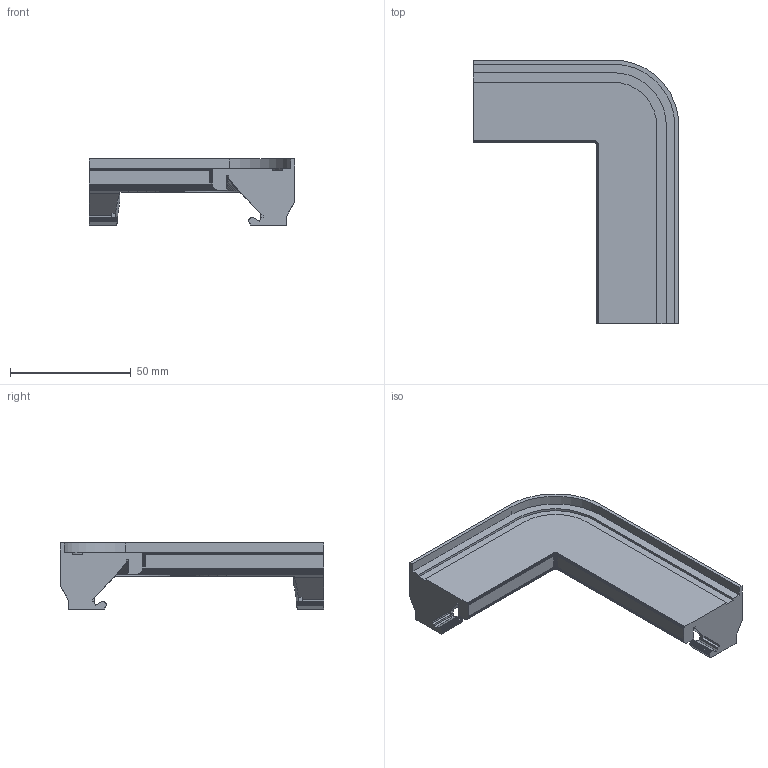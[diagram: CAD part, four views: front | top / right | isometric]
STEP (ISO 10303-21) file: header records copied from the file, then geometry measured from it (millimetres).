
FILE_DESCRIPTION(('Open CASCADE Model'),'2;1');
FILE_NAME('Open CASCADE Shape Model','2026-10-27T10:01:14',('Author'),( 'Open CASCADE'),'Open CASCADE STEP processor 8.0','build123d', 'Unknown');
FILE_SCHEMA(('AUTOMOTIVE_DESIGN { 1 0 10303 214 1 1 1 1 }'));
Products named in the file (1): SOLID
Bounding box: 85.2 x 109.2 x 27.4 mm (x, y, z)
Volume: 53133.6 mm3; surface area: 18874 mm2
Topology: 1 solids, 1 shells, 894 faces, 2011 edges, 1120 vertices
Faces by surface type: bspline 632, plane 254, cylinder 6, cone 2
Entity records: 48506 total; most frequent: CARTESIAN_POINT 12502, DIRECTION 4763, ORIENTED_EDGE 4022, PCURVE 4022, DEFINITIONAL_REPRESENTATION 4022, LINE 4011, VECTOR 4011, EDGE_CURVE 2011
